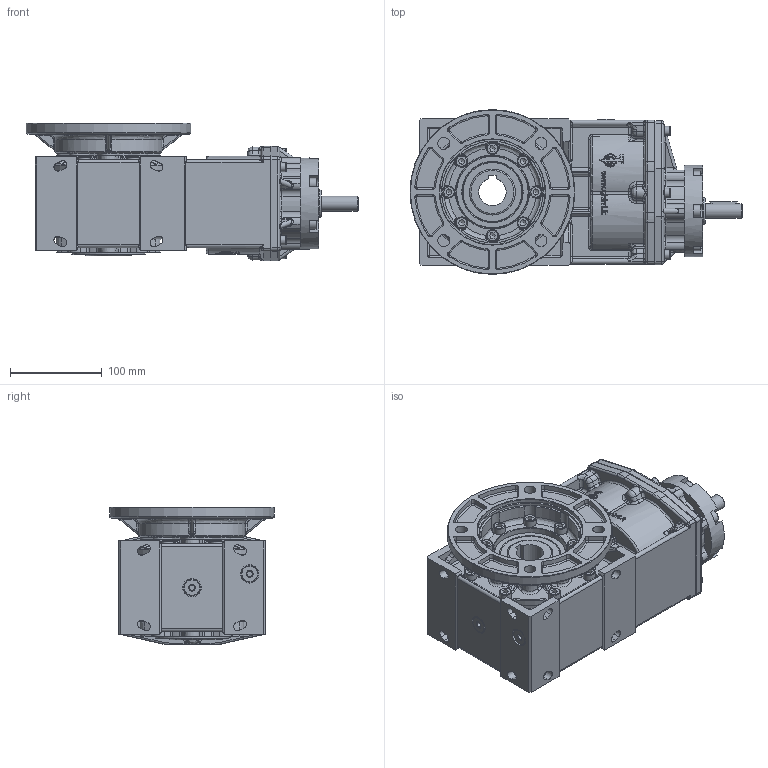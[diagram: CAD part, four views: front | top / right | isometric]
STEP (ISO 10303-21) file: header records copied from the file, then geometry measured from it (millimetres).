
FILE_DESCRIPTION((''),'2;1');
FILE_NAME('S:\Ghirri\3D\MO_RO20\Assiemi\RO20_3sFU.stp','2006-02-01T16:41:51',('Stefano'),(''),'Autodesk Inventor 10','Autodesk Inventor 10','');
FILE_SCHEMA(('AUTOMOTIVE_DESIGN { 1 0 10303 214 1 1 1 1 }'));
Length unit declared in the file: millimetre
Products named in the file (18): RO20_3sFU; Primario_MO20_3S; 3902001-A0; 3902003-A0; DIN 3760 AS AS - 50 x 65 x 8 - NBR; UNI 5931  M 8 x  20; 3902009-A0; 3902002-A0; Guarnizione 1_4 GAS; Tappo 1_4 GAS; UNI 8839 A 6; UNI 5931  M 6 x  25; Coperchio_Forato_3S_3902022-A0; UNI 5931  M 8 x  25; ALBERO PIGNONE_RO20_3S; 5 x 5 x 30; FU_MV63
Assembly tree (56 placements, depth 3):
  RO20_3sFU
    Primario_MO20_3S
      3902001-A0
      3902003-A0
      DIN 3760 AS AS - 50 x 65 x 8 - NBR  x2
      UNI 5931  M 8 x  20  x8
      3902009-A0
      3902002-A0
      Guarnizione 1_4 GAS  x5
      Tappo 1_4 GAS  x5
      UNI 8839 A 6  x6
      UNI 5931  M 6 x  25  x6
    Coperchio_Forato_3S_3902022-A0
    UNI 5931  M 8 x  25  x6
    ALBERO PIGNONE_RO20_3S
    5 x 5 x 30
    FU_MV63
      FU_MV63
      UNI 5931  M 8 x  20  x8
Bounding box: 362.5 x 180 x 150.5 mm (x, y, z)
Volume: 3844820.8 mm3; surface area: 546264.1 mm2
Topology: 53 solids, 61 shells, 3333 faces, 8306 edges, 5119 vertices
Faces by surface type: plane 1159, cylinder 1045, bspline 872, torus 133, cone 122, sphere 2
Full cylindrical faces by diameter (mm): 6 x6, 8 x22, 8.5 x8, 10 x6, 13 x32, 16 x1, 18 x5, 19 x5, 30 x1, 31 x2, 50 x4, 54.8 x2, 55 x1, 61 x2, 62 x2, 65 x4, 68 x2, 80 x3, 100 x1, 111 x1, 115 x1, 122.4 x1, 128 x3, 180 x1
Entity records: 128224 total; most frequent: CARTESIAN_POINT 63535, ORIENTED_EDGE 13752, DIRECTION 12838, EDGE_CURVE 6876, AXIS2_PLACEMENT_3D 5088, VERTEX_POINT 4366, EDGE_LOOP 3220, FACE_OUTER_BOUND 2833
